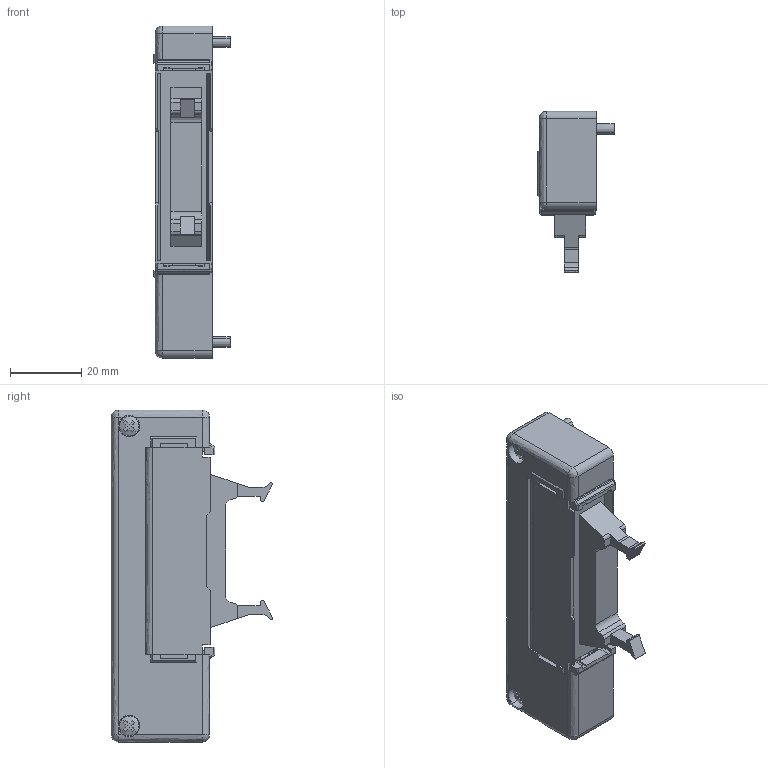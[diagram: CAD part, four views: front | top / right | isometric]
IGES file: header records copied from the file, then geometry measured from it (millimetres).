
Start section: ------------------------------------------------------------------------
Global section: file name: D:\ICADMX\tmp\trans3d_spg\CVICAD32.14756.FZX-F20xN_10077.igs; native system: spGate; preprocessor: ver12.6.6; author: Unknown; organization: Unknown; date: 200909.091711; units: millimetre
Bounding box: 21.4 x 45.2 x 93 mm (x, y, z)
Volume: 36224 mm3; surface area: 14522.7 mm2
Topology: 2 solids, 2 shells, 327 faces, 952 edges, 610 vertices
Faces by surface type: bspline 327
